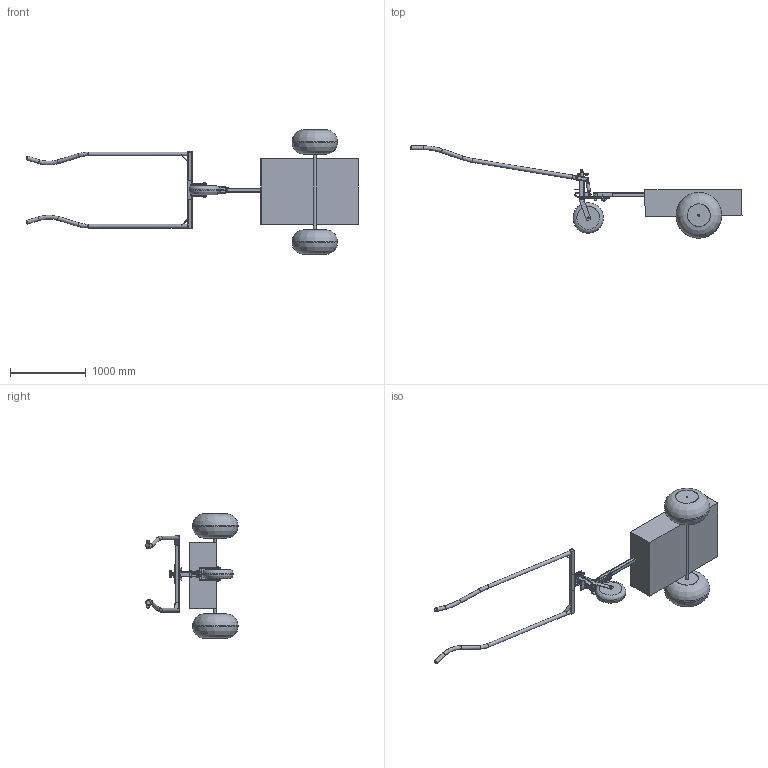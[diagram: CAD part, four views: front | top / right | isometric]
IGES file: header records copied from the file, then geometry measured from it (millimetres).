
Global section: file name: ATRAC LITE V1 COMPLET; native system: unknown; preprocessor: unknown; author: unknown; organization: unknown; date: 20191127.194030; units: millimetre
Bounding box: 4375.78 x 1214.27 x 1640 mm (x, y, z)
Volume: 553174480.7 mm3; surface area: 10707058.2 mm2
Topology: 54 solids, 54 shells, 669 faces, 2184 edges, 1616 vertices
Faces by surface type: bspline 653, revolution 16
